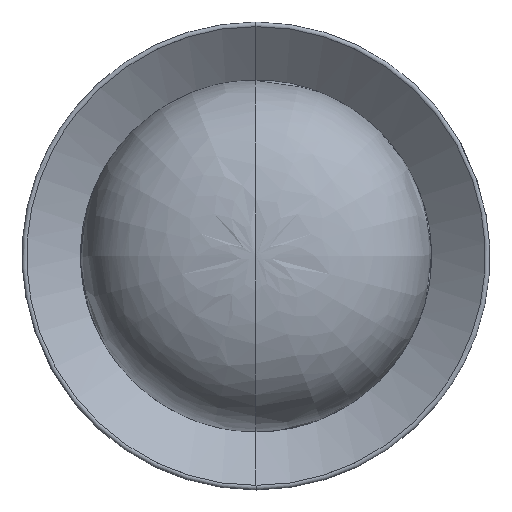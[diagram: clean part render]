
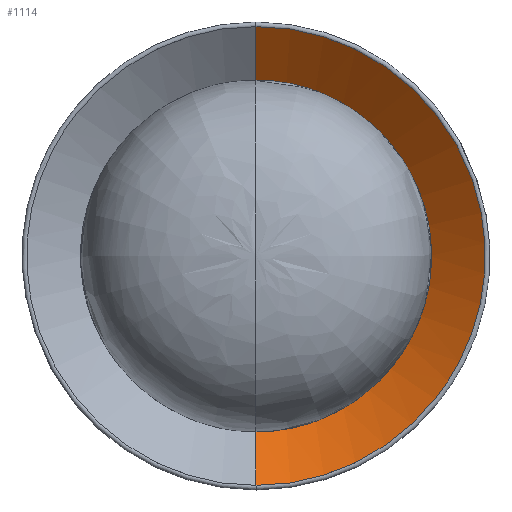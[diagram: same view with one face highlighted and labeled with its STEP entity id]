
A CAD part, top view. The second image highlights one B-rep face of the part: STEP entity #1114.
In plain terms, the highlighted conical face has half-angle 51.98 degrees and reference radius 57.346 mm.
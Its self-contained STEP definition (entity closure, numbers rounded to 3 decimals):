
#58=B_SPLINE_CURVE_WITH_KNOTS('',3,(#2957,#2958,#2959,#2960),
 .UNSPECIFIED.,.F.,.F.,(4,4),(0.857,1.),.UNSPECIFIED.);
#59=B_SPLINE_CURVE_WITH_KNOTS('',3,(#2962,#2963,#2964,#2965),
 .UNSPECIFIED.,.F.,.F.,(4,4),(0.714,0.857),
 .UNSPECIFIED.);
#60=B_SPLINE_CURVE_WITH_KNOTS('',3,(#2967,#2968,#2969,#2970,#2971,#2972),
 .UNSPECIFIED.,.F.,.F.,(4,1,1,4),(0.286,0.429,0.571,
0.714),.UNSPECIFIED.);
#61=B_SPLINE_CURVE_WITH_KNOTS('',3,(#2974,#2975,#2976,#2977),
 .UNSPECIFIED.,.F.,.F.,(4,4),(0.143,0.286),
 .UNSPECIFIED.);
#62=B_SPLINE_CURVE_WITH_KNOTS('',3,(#2979,#2980,#2981,#2982),
 .UNSPECIFIED.,.F.,.F.,(4,4),(0.,0.143),.UNSPECIFIED.);
#128=CONICAL_SURFACE('',#1222,57.346,0.907);
#174=FACE_OUTER_BOUND('',#240,.T.);
#240=EDGE_LOOP('',(#912,#913,#914,#915,#916,#917,#918,#919));
#302=CIRCLE('',#1219,44.411);
#352=LINE('',#2955,#406);
#353=LINE('',#2983,#407);
#406=VECTOR('',#1459,304.8);
#407=VECTOR('',#1460,304.8);
#486=VERTEX_POINT('',#2946);
#487=VERTEX_POINT('',#2948);
#488=VERTEX_POINT('',#2954);
#489=VERTEX_POINT('',#2956);
#490=VERTEX_POINT('',#2961);
#491=VERTEX_POINT('',#2966);
#492=VERTEX_POINT('',#2973);
#493=VERTEX_POINT('',#2978);
#635=EDGE_CURVE('',#487,#486,#302,.T.);
#638=EDGE_CURVE('',#488,#486,#352,.T.);
#639=EDGE_CURVE('',#489,#488,#58,.T.);
#640=EDGE_CURVE('',#490,#489,#59,.T.);
#641=EDGE_CURVE('',#491,#490,#60,.T.);
#642=EDGE_CURVE('',#492,#491,#61,.T.);
#643=EDGE_CURVE('',#493,#492,#62,.T.);
#644=EDGE_CURVE('',#487,#493,#353,.T.);
#912=ORIENTED_EDGE('',*,*,#635,.T.);
#913=ORIENTED_EDGE('',*,*,#638,.F.);
#914=ORIENTED_EDGE('',*,*,#639,.F.);
#915=ORIENTED_EDGE('',*,*,#640,.F.);
#916=ORIENTED_EDGE('',*,*,#641,.F.);
#917=ORIENTED_EDGE('',*,*,#642,.F.);
#918=ORIENTED_EDGE('',*,*,#643,.F.);
#919=ORIENTED_EDGE('',*,*,#644,.F.);
#1114=ADVANCED_FACE('',(#174),#128,.F.);
#1219=AXIS2_PLACEMENT_3D('',#2949,#1450,#1451);
#1222=AXIS2_PLACEMENT_3D('',#2953,#1457,#1458);
#1450=DIRECTION('center_axis',(0.,0.,-1.));
#1451=DIRECTION('ref_axis',(-0.588,0.809,0.));
#1457=DIRECTION('center_axis',(0.,0.,
1.));
#1458=DIRECTION('ref_axis',(1.,0.,0.));
#1459=DIRECTION('',(0.,0.788,-0.616));
#1460=DIRECTION('',(0.,0.788,0.616));
#2946=CARTESIAN_POINT('',(0.,-44.411,21.5));
#2948=CARTESIAN_POINT('',(0.,44.411,21.5));
#2949=CARTESIAN_POINT('Origin',(0.,0.,
21.5));
#2953=CARTESIAN_POINT('Origin',(0.,0.,
31.613));
#2954=CARTESIAN_POINT('',(0.,-58.783,32.737));
#2955=CARTESIAN_POINT('',(0.,-58.783,32.737));
#2956=CARTESIAN_POINT('',(25.505,-52.962,32.737));
#2957=CARTESIAN_POINT('Ctrl Pts',(25.505,-52.962,32.737));
#2958=CARTESIAN_POINT('Ctrl Pts',(17.6,-56.811,32.737));
#2959=CARTESIAN_POINT('Ctrl Pts',(8.854,-58.911,32.737));
#2960=CARTESIAN_POINT('Ctrl Pts',(0.,-58.783,
32.737));
#2961=CARTESIAN_POINT('',(45.958,-36.651,32.737));
#2962=CARTESIAN_POINT('Ctrl Pts',(45.958,-36.651,32.737));
#2963=CARTESIAN_POINT('Ctrl Pts',(40.472,-43.515,32.737));
#2964=CARTESIAN_POINT('Ctrl Pts',(33.41,-49.113,32.737));
#2965=CARTESIAN_POINT('Ctrl Pts',(25.505,-52.962,32.737));
#2966=CARTESIAN_POINT('',(45.958,36.651,32.737));
#2967=CARTESIAN_POINT('Ctrl Pts',(45.958,36.651,32.737));
#2968=CARTESIAN_POINT('Ctrl Pts',(51.445,29.786,32.737));
#2969=CARTESIAN_POINT('Ctrl Pts',(59.264,13.522,32.737));
#2970=CARTESIAN_POINT('Ctrl Pts',(59.264,-13.522,32.737));
#2971=CARTESIAN_POINT('Ctrl Pts',(51.445,-29.786,32.737));
#2972=CARTESIAN_POINT('Ctrl Pts',(45.958,-36.651,32.737));
#2973=CARTESIAN_POINT('',(25.505,52.962,32.737));
#2974=CARTESIAN_POINT('Ctrl Pts',(25.505,52.962,32.737));
#2975=CARTESIAN_POINT('Ctrl Pts',(33.41,49.113,32.737));
#2976=CARTESIAN_POINT('Ctrl Pts',(40.472,43.515,32.737));
#2977=CARTESIAN_POINT('Ctrl Pts',(45.958,36.651,32.737));
#2978=CARTESIAN_POINT('',(0.,58.783,32.737));
#2979=CARTESIAN_POINT('Ctrl Pts',(0.,58.783,
32.737));
#2980=CARTESIAN_POINT('Ctrl Pts',(8.854,58.911,32.737));
#2981=CARTESIAN_POINT('Ctrl Pts',(17.6,56.811,32.737));
#2982=CARTESIAN_POINT('Ctrl Pts',(25.505,52.962,32.737));
#2983=CARTESIAN_POINT('',(0.,44.411,21.5));
